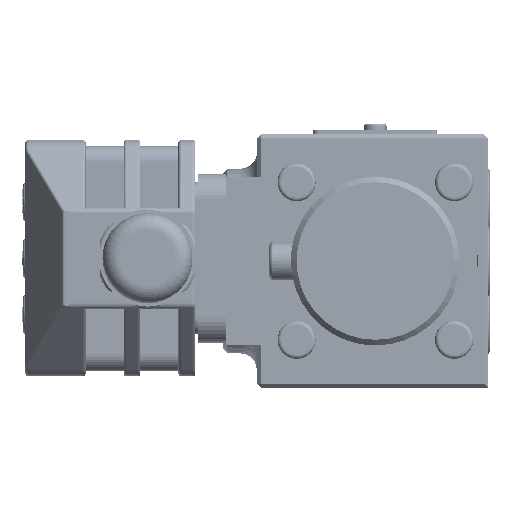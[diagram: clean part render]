
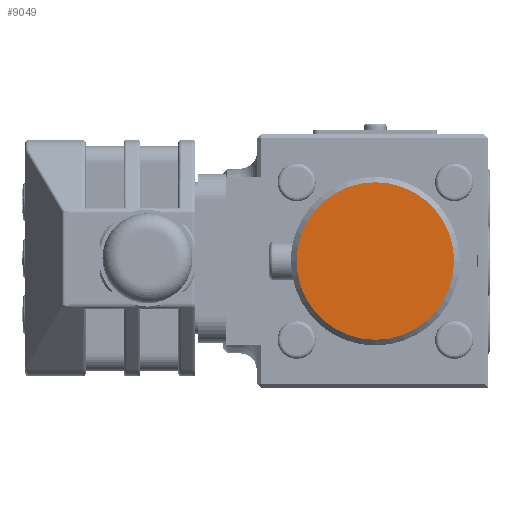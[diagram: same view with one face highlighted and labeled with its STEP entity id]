
A CAD part, left-side view. The second image highlights one B-rep face of the part: STEP entity #9049.
In plain terms, the highlighted planar face has unit normal (-1, 0, 0).
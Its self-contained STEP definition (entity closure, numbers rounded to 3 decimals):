
#6316=PLANE('',#40731);
#7524=CIRCLE('',#40730,14.);
#9049=ADVANCED_FACE('',(#11865),#6316,.F.);
#11865=FACE_OUTER_BOUND('',#13545,.T.);
#13545=EDGE_LOOP('',(#22235));
#22235=ORIENTED_EDGE('',*,*,#35380,.T.);
#31984=VERTEX_POINT('',#57099);
#35380=EDGE_CURVE('',#31984,#31984,#7524,.T.);
#40730=AXIS2_PLACEMENT_3D('',#57098,#44450,#44451);
#40731=AXIS2_PLACEMENT_3D('',#57100,#44452,#44453);
#44450=DIRECTION('',(-1.,0.,0.));
#44451=DIRECTION('',(0.,0.,1.));
#44452=DIRECTION('',(1.,0.,0.));
#44453=DIRECTION('',(0.,0.,-1.));
#57098=CARTESIAN_POINT('',(24.997,177.88,0.));
#57099=CARTESIAN_POINT('',(24.997,177.88,14.));
#57100=CARTESIAN_POINT('',(24.997,163.88,0.));
